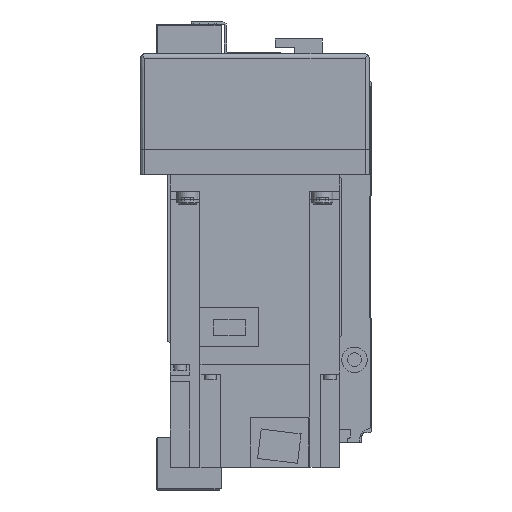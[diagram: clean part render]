
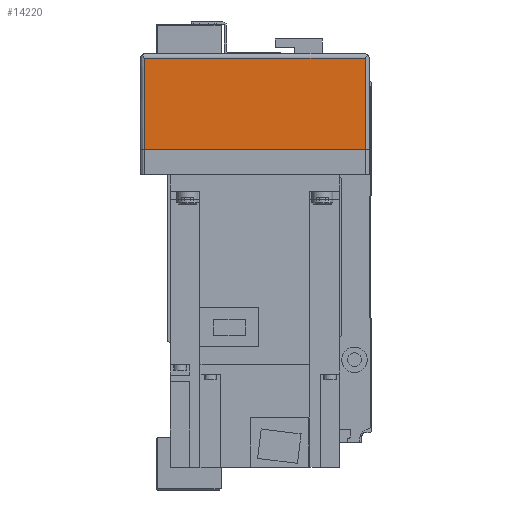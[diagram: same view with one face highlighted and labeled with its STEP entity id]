
A CAD part, left-side view. The second image highlights one B-rep face of the part: STEP entity #14220.
In plain terms, the highlighted planar face has unit normal (-1, 0, 0).
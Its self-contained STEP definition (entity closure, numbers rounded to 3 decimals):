
#2558=ORIENTED_EDGE('',*,*,#5888,.T.);
#2559=ORIENTED_EDGE('',*,*,#5816,.T.);
#2560=ORIENTED_EDGE('',*,*,#5889,.F.);
#2561=ORIENTED_EDGE('',*,*,#5828,.F.);
#5816=EDGE_CURVE('',#7630,#7633,#9122,.T.);
#5828=EDGE_CURVE('',#7640,#7642,#9127,.T.);
#5888=EDGE_CURVE('',#7640,#7630,#9169,.T.);
#5889=EDGE_CURVE('',#7642,#7633,#9170,.T.);
#7630=VERTEX_POINT('',#22283);
#7633=VERTEX_POINT('',#22289);
#7640=VERTEX_POINT('',#22312);
#7642=VERTEX_POINT('',#22315);
#9122=LINE('',#22290,#10435);
#9127=LINE('',#22314,#10440);
#9169=LINE('',#22438,#10482);
#9170=LINE('',#22439,#10483);
#10435=VECTOR('',#17779,1000.);
#10440=VECTOR('',#17806,1000.);
#10482=VECTOR('',#17926,1000.);
#10483=VECTOR('',#17927,1000.);
#11591=EDGE_LOOP('',(#2558,#2559,#2560,#2561));
#12690=FACE_BOUND('',#11591,.T.);
#13621=PLANE('',#15289);
#14220=ADVANCED_FACE('',(#12690),#13621,.T.);
#15289=AXIS2_PLACEMENT_3D('',#22437,#17924,#17925);
#17779=DIRECTION('',(0.,0.,1.));
#17806=DIRECTION('',(0.,0.,1.));
#17924=DIRECTION('',(-1.,0.,0.));
#17925=DIRECTION('',(0.,0.,1.));
#17926=DIRECTION('',(0.,-1.,0.));
#17927=DIRECTION('',(0.,-1.,0.));
#22283=CARTESIAN_POINT('',(-230.,-52.,-55.));
#22289=CARTESIAN_POINT('',(-230.,-52.,-12.));
#22290=CARTESIAN_POINT('',(-230.,-52.,-57.));
#22312=CARTESIAN_POINT('',(-230.,52.,-55.));
#22314=CARTESIAN_POINT('',(-230.,52.,-57.));
#22315=CARTESIAN_POINT('',(-230.,52.,-12.));
#22437=CARTESIAN_POINT('',(-230.,52.,-57.));
#22438=CARTESIAN_POINT('',(-230.,54.,-55.));
#22439=CARTESIAN_POINT('',(-230.,52.,-12.));
